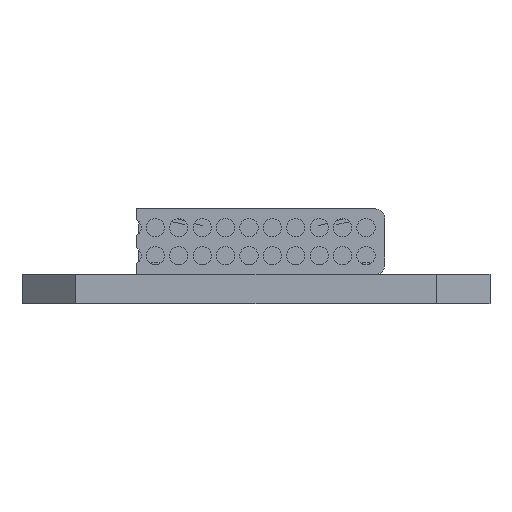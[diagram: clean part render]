
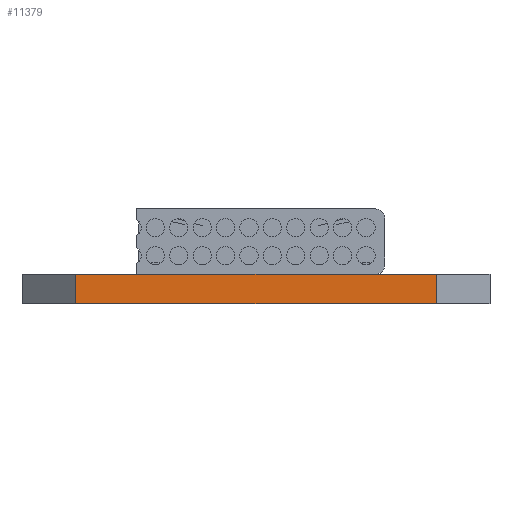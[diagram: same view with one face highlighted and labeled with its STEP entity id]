
A CAD part, front view. The second image highlights one B-rep face of the part: STEP entity #11379.
In plain terms, the highlighted planar face has unit normal (0, -1, 0).
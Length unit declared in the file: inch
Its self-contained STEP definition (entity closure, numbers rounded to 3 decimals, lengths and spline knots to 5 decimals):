
#109 = PLANE ( 'NONE',  #11359 ) ;
#980 = VERTEX_POINT ( 'NONE', #19893 ) ;
#981 = ORIENTED_EDGE ( 'NONE', *, *, #18645, .F. ) ;
#2958 = DIRECTION ( 'NONE',  ( 0., 0., 1. ) ) ;
#3822 = ORIENTED_EDGE ( 'NONE', *, *, #4170, .T. ) ;
#4170 = EDGE_CURVE ( 'NONE', #7306, #980, #10977, .T. ) ;
#4343 = VERTEX_POINT ( 'NONE', #6489 ) ;
#4405 = VECTOR ( 'NONE', #12756, 39.37008 ) ;
#6396 = DIRECTION ( 'NONE',  ( 0., 0., -1. ) ) ;
#6489 = CARTESIAN_POINT ( 'NONE',  ( 0.4425, 0., 0.031 ) ) ;
#6529 = LINE ( 'NONE', #18703, #4405 ) ;
#7306 = VERTEX_POINT ( 'NONE', #18668 ) ;
#8138 = VECTOR ( 'NONE', #20136, 39.37008 ) ;
#9104 = CARTESIAN_POINT ( 'NONE',  ( 0.4425, 0., 0. ) ) ;
#9749 = VERTEX_POINT ( 'NONE', #9104 ) ;
#10578 = LINE ( 'NONE', #16418, #14824 ) ;
#10661 = EDGE_LOOP ( 'NONE', ( #15846, #981, #15921, #3822 ) ) ;
#10977 = LINE ( 'NONE', #17212, #19721 ) ;
#11359 = AXIS2_PLACEMENT_3D ( 'NONE', #16839, #18485, #2958 ) ;
#11379 = ADVANCED_FACE ( 'NONE', ( #18795 ), #109, .F. ) ;
#12551 = LINE ( 'NONE', #18390, #8138 ) ;
#12756 = DIRECTION ( 'NONE',  ( 0., 0., -1. ) ) ;
#13407 = EDGE_CURVE ( 'NONE', #7306, #4343, #12551, .T. ) ;
#14824 = VECTOR ( 'NONE', #18167, 39.37008 ) ;
#15846 = ORIENTED_EDGE ( 'NONE', *, *, #17873, .T. ) ;
#15921 = ORIENTED_EDGE ( 'NONE', *, *, #13407, .F. ) ;
#16418 = CARTESIAN_POINT ( 'NONE',  ( 0.4425, 0., 0. ) ) ;
#16839 = CARTESIAN_POINT ( 'NONE',  ( 0.4425, 0., 0.031 ) ) ;
#17212 = CARTESIAN_POINT ( 'NONE',  ( 0.0575, 0., 0.031 ) ) ;
#17873 = EDGE_CURVE ( 'NONE', #980, #9749, #10578, .T. ) ;
#18167 = DIRECTION ( 'NONE',  ( 1., 0., 0. ) ) ;
#18390 = CARTESIAN_POINT ( 'NONE',  ( 0.4425, 0., 0.031 ) ) ;
#18485 = DIRECTION ( 'NONE',  ( 0., 1., 0. ) ) ;
#18645 = EDGE_CURVE ( 'NONE', #4343, #9749, #6529, .T. ) ;
#18668 = CARTESIAN_POINT ( 'NONE',  ( 0.0575, 0., 0.031 ) ) ;
#18703 = CARTESIAN_POINT ( 'NONE',  ( 0.4425, 0., 0.031 ) ) ;
#18795 = FACE_OUTER_BOUND ( 'NONE', #10661, .T. ) ;
#19721 = VECTOR ( 'NONE', #6396, 39.37008 ) ;
#19893 = CARTESIAN_POINT ( 'NONE',  ( 0.0575, 0., 0. ) ) ;
#20136 = DIRECTION ( 'NONE',  ( 1., 0., 0. ) ) ;
